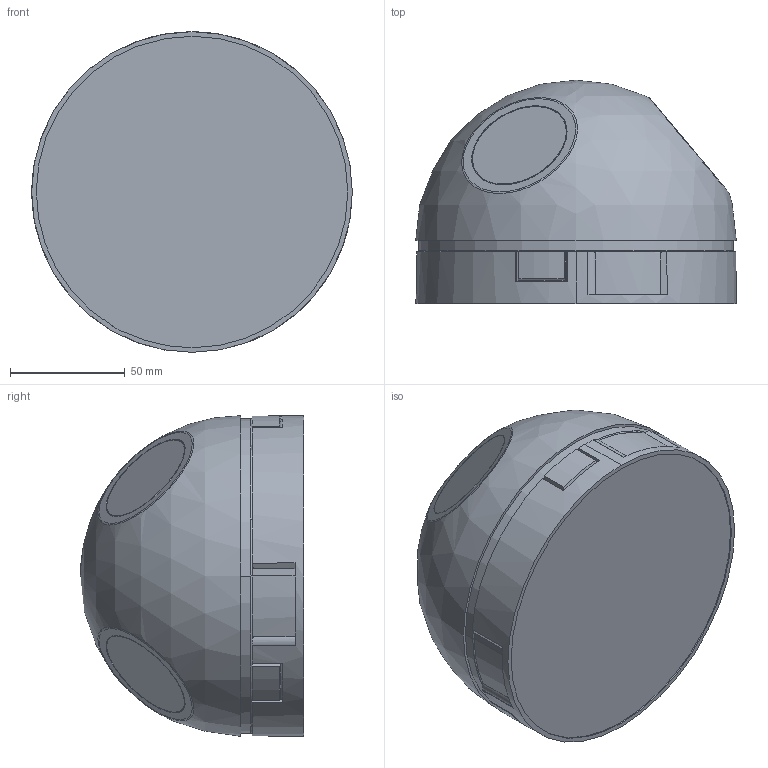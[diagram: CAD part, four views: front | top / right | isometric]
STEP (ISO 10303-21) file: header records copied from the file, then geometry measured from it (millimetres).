
FILE_DESCRIPTION (( 'STEP AP203' ), '1' );
FILE_NAME ('Pluto_11_Block.STEP', '2023-01-31T10:55:28', ( '' ), ( '' ), 'SwSTEP 2.0', 'SolidWorks 2021', '' );
FILE_SCHEMA (( 'CONFIG_CONTROL_DESIGN' ));
Length unit declared in the file: millimetre
Products named in the file (1): Pluto_11_Block
Bounding box: 140.01 x 97.5 x 140.01 mm (x, y, z)
Volume: 1107139.8 mm3; surface area: 65647.2 mm2
Topology: 1 solids, 1 shells, 2238 faces, 6652 edges, 4318 vertices
Faces by surface type: plane 1495, cylinder 452, bspline 232, cone 44, torus 9, sphere 6
Entity records: 81975 total; most frequent: CARTESIAN_POINT 24951, ORIENTED_EDGE 13288, DIRECTION 9718, EDGE_CURVE 6644, LINE 4812, VECTOR 4812, VERTEX_POINT 4313, AXIS2_PLACEMENT_3D 2453
